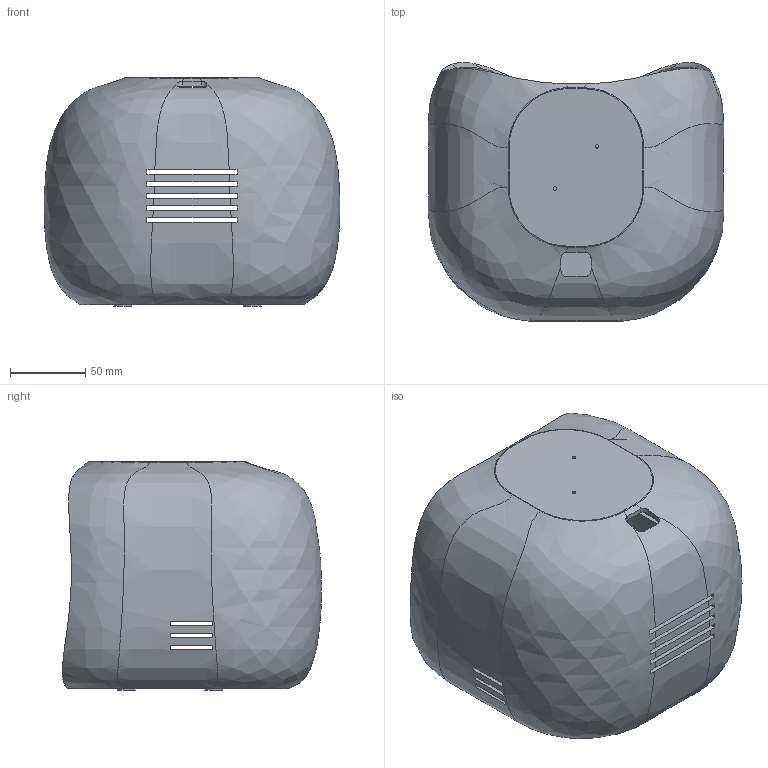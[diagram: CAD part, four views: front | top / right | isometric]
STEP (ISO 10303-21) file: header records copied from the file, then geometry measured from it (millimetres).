
FILE_DESCRIPTION(('FreeCAD Model'),'2;1');
FILE_NAME('Open CASCADE Shape Model','2026-10-18T22:43:13',('FreeCAD'),( 'FreeCAD'),'Open CASCADE STEP processor 7.8','FreeCAD','Unknown');
FILE_SCHEMA(('AUTOMOTIVE_DESIGN { 1 0 10303 214 1 1 1 1 }'));
Length unit declared in the file: millimetre
Products named in the file (1): Open CASCADE STEP translator 7.8 8
Bounding box: 196.62 x 172.33 x 151.68 mm (x, y, z)
Volume: 407543.8 mm3; surface area: 227886.9 mm2
Topology: 1 solids, 1 shells, 412 faces, 1172 edges, 780 vertices
Faces by surface type: plane 262, cylinder 70, bspline 63, sphere 17
Full cylindrical faces by diameter (mm): 2.4 x2, 2.9 x4, 3.4 x12, 4 x2, 10 x2, 12 x4
Entity records: 29689 total; most frequent: CARTESIAN_POINT 19884, ORIENTED_EDGE 2344, DIRECTION 1600, EDGE_CURVE 1172, VERTEX_POINT 780, LINE 556, VECTOR 556, AXIS2_PLACEMENT_3D 522
